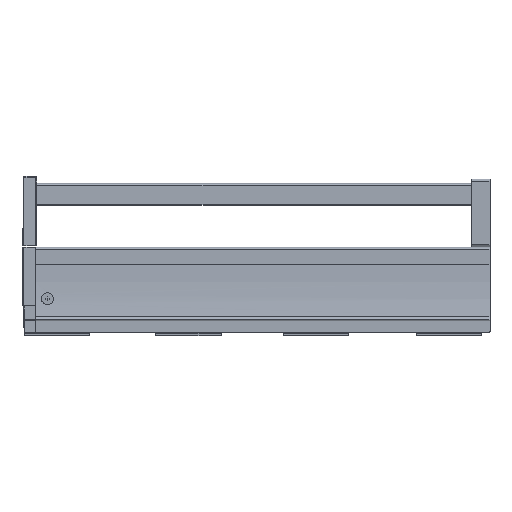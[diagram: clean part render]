
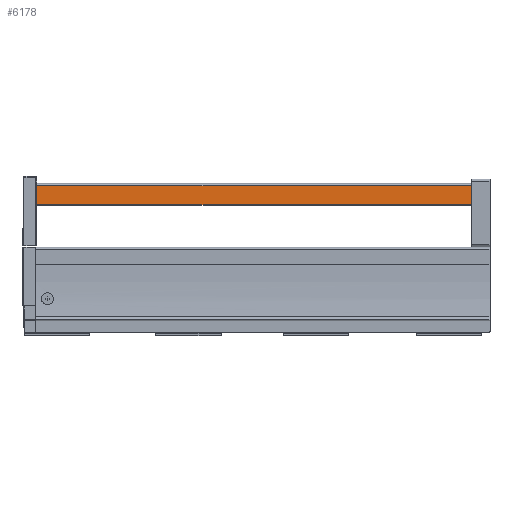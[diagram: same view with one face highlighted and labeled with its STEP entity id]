
A CAD part, left-side view. The second image highlights one B-rep face of the part: STEP entity #6178.
In plain terms, the highlighted planar face has unit normal (-1, 0, 0).
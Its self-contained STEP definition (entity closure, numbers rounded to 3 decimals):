
#169 = EDGE_CURVE ( 'NONE', #6661, #6613, #1251, .T. ) ;
#321 = EDGE_CURVE ( 'NONE', #6659, #6661, #960, .T. ) ;
#608 = EDGE_CURVE ( 'NONE', #6659, #6614, #5342, .T. ) ;
#959 = VECTOR ( 'NONE', #2506, 1000. ) ;
#960 = LINE ( 'NONE', #2505, #959 ) ;
#1244 = VECTOR ( 'NONE', #6125, 1000. ) ;
#1251 = LINE ( 'NONE', #6129, #1244 ) ;
#1761 = EDGE_LOOP ( 'NONE', ( #1912, #1911, #1910, #1909 ) ) ;
#1909 = ORIENTED_EDGE ( 'NONE', *, *, #321, .F. ) ;
#1910 = ORIENTED_EDGE ( 'NONE', *, *, #169, .F. ) ;
#1911 = ORIENTED_EDGE ( 'NONE', *, *, #6048, .F. ) ;
#1912 = ORIENTED_EDGE ( 'NONE', *, *, #608, .T. ) ;
#2505 = CARTESIAN_POINT ( 'NONE',  ( -17.15, 622.25, 166.098 ) ) ;
#2506 = DIRECTION ( 'NONE',  ( 0., 0., 1. ) ) ;
#3191 = CARTESIAN_POINT ( 'NONE',  ( -17.15, 738.5, 140.048 ) ) ;
#3199 = DIRECTION ( 'NONE',  ( 0., -1., 0. ) ) ;
#3417 = CARTESIAN_POINT ( 'NONE',  ( -17.15, 25.45, 166.098 ) ) ;
#3418 = DIRECTION ( 'NONE',  ( 0., 0., -1. ) ) ;
#3574 = CARTESIAN_POINT ( 'NONE',  ( -17.15, 738.5, 166.098 ) ) ;
#3577 = PLANE ( 'NONE',  #4823 ) ;
#3579 = DIRECTION ( 'NONE',  ( -1., 0., 0. ) ) ;
#3580 = DIRECTION ( 'NONE',  ( 0., 0., -1. ) ) ;
#4565 = CARTESIAN_POINT ( 'NONE',  ( -17.15, 25.45, 166.098 ) ) ;
#4566 = CARTESIAN_POINT ( 'NONE',  ( -17.15, 25.45, 140.048 ) ) ;
#4611 = CARTESIAN_POINT ( 'NONE',  ( -17.15, 622.25, 140.048 ) ) ;
#4613 = CARTESIAN_POINT ( 'NONE',  ( -17.15, 622.25, 166.098 ) ) ;
#4823 = AXIS2_PLACEMENT_3D ( 'NONE', #3574, #3579, #3580 ) ;
#5342 = LINE ( 'NONE', #3191, #5370 ) ;
#5370 = VECTOR ( 'NONE', #3199, 1000. ) ;
#5529 = VECTOR ( 'NONE', #3418, 1000. ) ;
#5548 = LINE ( 'NONE', #3417, #5529 ) ;
#5610 = FACE_OUTER_BOUND ( 'NONE', #1761, .T. ) ;
#6048 = EDGE_CURVE ( 'NONE', #6613, #6614, #5548, .T. ) ;
#6125 = DIRECTION ( 'NONE',  ( 0., -1., 0. ) ) ;
#6129 = CARTESIAN_POINT ( 'NONE',  ( -17.15, 738.5, 166.098 ) ) ;
#6178 = ADVANCED_FACE ( 'NONE', ( #5610 ), #3577, .T. ) ;
#6613 = VERTEX_POINT ( 'NONE', #4565 ) ;
#6614 = VERTEX_POINT ( 'NONE', #4566 ) ;
#6659 = VERTEX_POINT ( 'NONE', #4611 ) ;
#6661 = VERTEX_POINT ( 'NONE', #4613 ) ;
